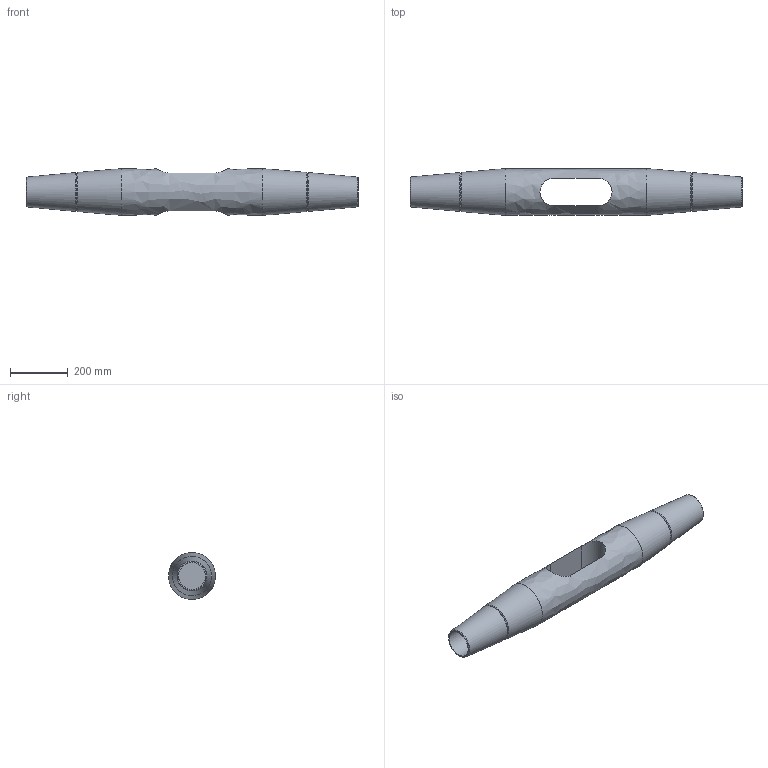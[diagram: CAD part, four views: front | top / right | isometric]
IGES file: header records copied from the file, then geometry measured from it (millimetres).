
Global section: file name: 520-090-KMF; native system: Autodesk Inventor 2016; preprocessor: unknown; author: Administrator; date: 20200702.132853; units: centimetre
Bounding box: 1150 x 162 x 161.98 mm (x, y, z)
Volume: 14270772.4 mm3; surface area: 657669.6 mm2
Topology: 1 solids, 1 shells, 21 faces, 53 edges, 36 vertices
Faces by surface type: bspline 21
